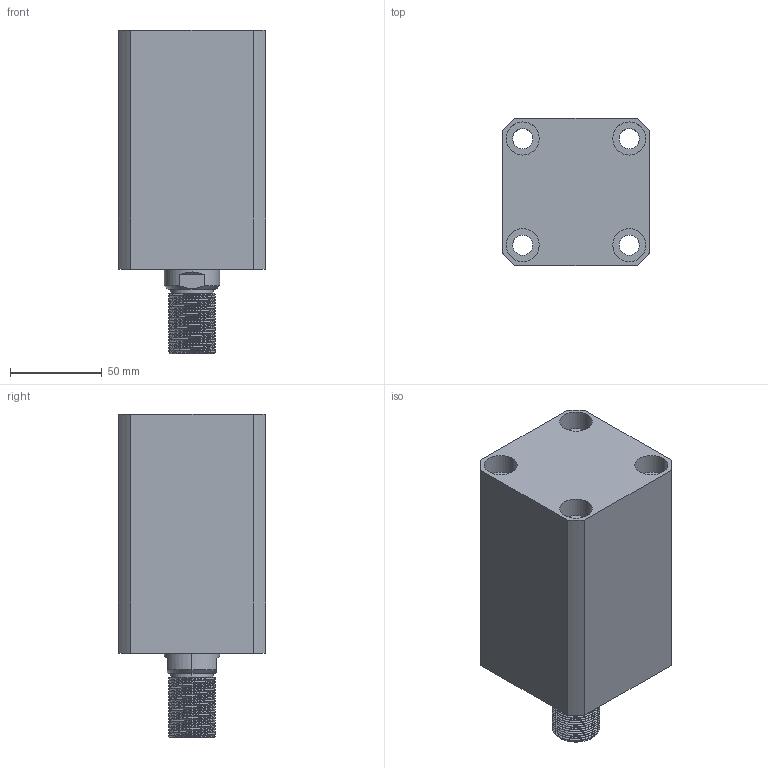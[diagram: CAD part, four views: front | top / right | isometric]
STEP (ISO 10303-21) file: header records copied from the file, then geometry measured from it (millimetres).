
FILE_DESCRIPTION (( 'STEP AP203' ), '1' );
FILE_NAME ('CHTB-SD50-70W.STEP', '2018-05-19T00:20:20', ( '' ), ( '' ), 'SwSTEP 2.0', 'SolidWorks 2015', '' );
FILE_SCHEMA (( 'CONFIG_CONTROL_DESIGN' ));
Length unit declared in the file: millimetre
Products named in the file (4): 活塞杆SD50-70W; CHTM-SD50QG; CHTB-SD50-70W; 掛极SD50-70W
Assembly tree (3 placements, depth 2):
  CHTB-SD50-70W
    掛极SD50-70W
    活塞杆SD50-70W
    CHTM-SD50QG
Bounding box: 80 x 80 x 176 mm (x, y, z)
Volume: 687214.3 mm3; surface area: 130242.6 mm2
Topology: 3 solids, 3 shells, 236 faces, 627 edges, 419 vertices
Faces by surface type: cylinder 144, plane 41, cone 19, bspline 16, torus 16
Entity records: 14613 total; most frequent: CARTESIAN_POINT 8784, ORIENTED_EDGE 1246, DIRECTION 1029, EDGE_CURVE 623, AXIS2_PLACEMENT_3D 422, VERTEX_POINT 419, EDGE_LOOP 276, ADVANCED_FACE 236
